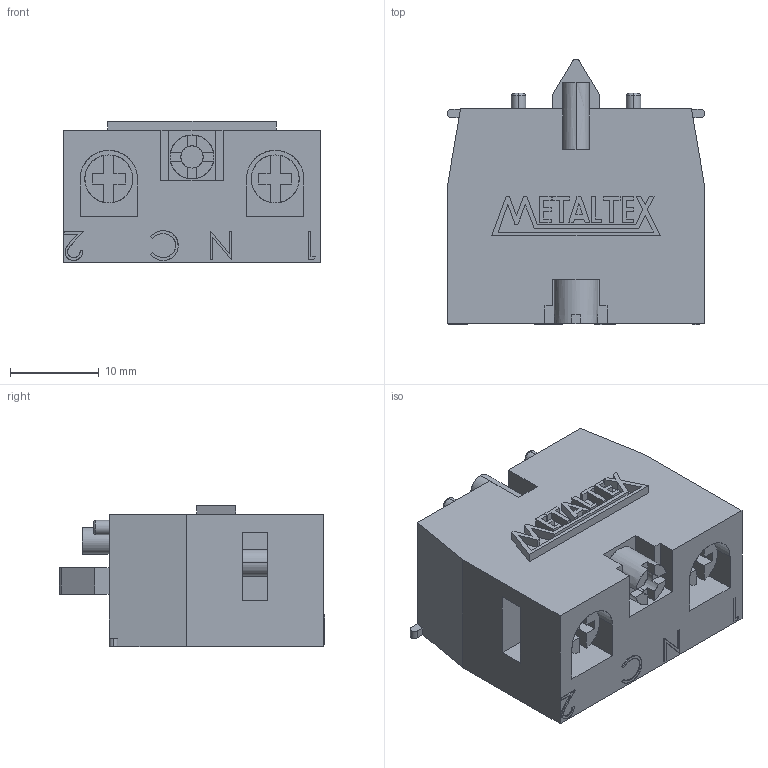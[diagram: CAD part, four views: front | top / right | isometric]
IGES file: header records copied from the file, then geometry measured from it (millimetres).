
Start section: SolidWorks IGES file using analytic representation for surfaces
Global section: file name: D:\X - Arquivos\PROEX\Empresas\P11 - METALTEX\01 - Produtos\IGES\Primeira remessa\M20-1B.IGS; native system: SolidWorks 2012; preprocessor: SolidWorks 2012; author: Usuario; date: 180117.114140; units: millimetre
Bounding box: 29 x 29.9 x 15.9 mm (x, y, z)
Surface area: 4293.7 mm2 (no closed solid volume)
Topology: 0 solids, 0 shells, 261 faces, 2224 edges, 2224 vertices
Faces by surface type: bspline 236, revolution 25
